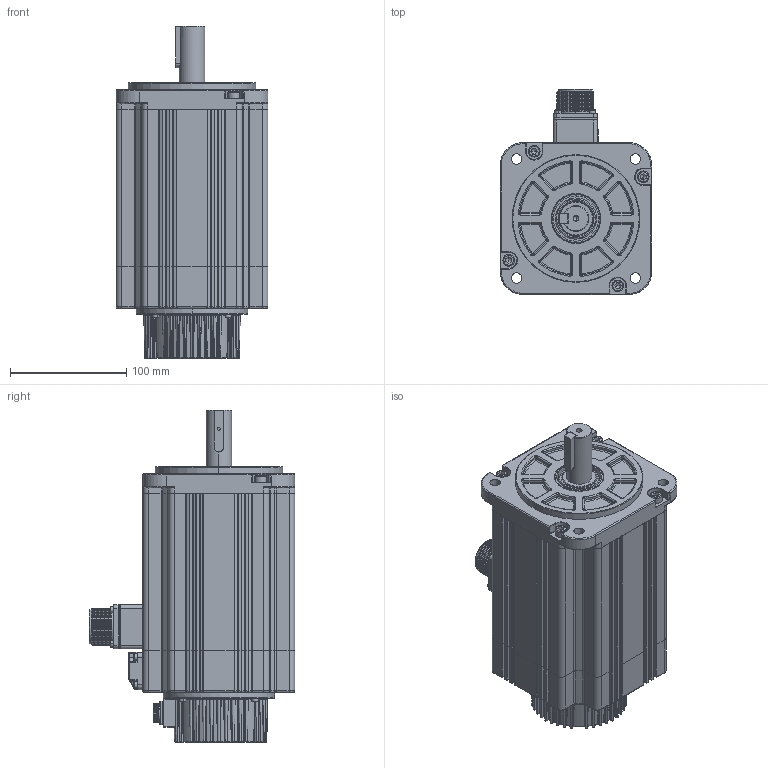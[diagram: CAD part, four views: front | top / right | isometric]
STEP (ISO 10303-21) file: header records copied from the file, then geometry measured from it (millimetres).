
FILE_DESCRIPTION (( 'STEP AP214' ), '1' );
FILE_NAME ('V7E-M13A-2R315-D2.STEP', '2021-08-09T07:20:59', ( '' ), ( '' ), 'SwSTEP 2.0', 'SolidWorks 2014', '' );
FILE_SCHEMA (( 'AUTOMOTIVE_DESIGN' ));
Length unit declared in the file: millimetre
Products named in the file (20): 儂褲200901; SC瑤諾脣芛 MS3102A20-18P; 粣200907; 囀鞠褒 M3X8; V7-130#定子组件（不带刹车）; V7-130#转子组件（不带刹车）; V7E-M13A-2R315-D2; SC瑤諾脣芛 16M-9H; 130陔ヶ傷裔200902; 雄薯瑤脣釱200909; 价陬揤盄裔200912; 零件1^V7-130#电机组件（不带刹车）200927; 蚐猾 D00B999YF7-TC 30-42-7; 囀鞠褒 M6X20; SC綴傷裔200903-4晚源倛; 坋趼攫芛 M2X8; 囀鞠褒 M3X30; 囀鞠褒 M3X10; 130陔ヶ傷裔200917; SC晤鎢ん欶200908_9郋
Assembly tree (34 placements, depth 4):
  V7E-M13A-2R315-D2
    V7-130#定子组件（不带刹车）
      囀鞠褒 M6X20  x4
      130陔ヶ傷裔200917
        130陔ヶ傷裔200902
    V7-130#转子组件（不带刹车）
      粣200907
    SC瑤諾脣芛 16M-9H
    SC晤鎢ん欶200908_9郋
    囀鞠褒 M3X10  x4
    坋趼攫芛 M2X8  x4
    蚐猾 D00B999YF7-TC 30-42-7
    零件1^V7-130#电机组件（不带刹车）200927
    儂褲200901
    雄薯瑤脣釱200909
    SC綴傷裔200903-4晚源倛
    SC瑤諾脣芛 MS3102A20-18P
    价陬揤盄裔200912
    囀鞠褒 M3X8  x4
    囀鞠褒 M3X30  x4
Bounding box: 131 x 177.3 x 286.2 mm (x, y, z)
Volume: 1021721.7 mm3; surface area: 377255 mm2
Topology: 32 solids, 32 shells, 3266 faces, 7874 edges, 4542 vertices
Faces by surface type: cylinder 1247, bspline 877, plane 797, cone 309, torus 32, sphere 4
Entity records: 142586 total; most frequent: CARTESIAN_POINT 50646, ORIENTED_EDGE 13554, DIRECTION 12244, EDGE_CURVE 6777, AXIS2_PLACEMENT_3D 4841, VERTEX_POINT 4014, EDGE_LOOP 3121, ADVANCED_FACE 2894
